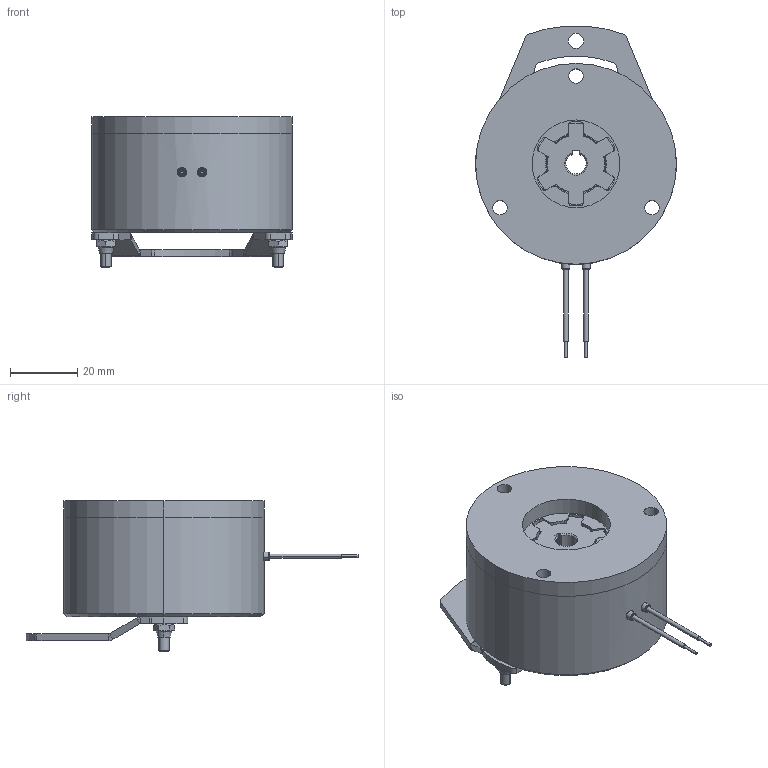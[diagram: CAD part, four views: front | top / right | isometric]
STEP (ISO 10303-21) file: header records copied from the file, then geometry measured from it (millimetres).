
FILE_DESCRIPTION (( 'STEP AP214' ), '1' );
FILE_NAME ('dr_bk_0008_hf.STEP', '2021-11-08T13:42:02', ( '' ), ( '' ), 'SwSTEP 2.0', 'SolidWorks 2019', '' );
FILE_SCHEMA (( 'AUTOMOTIVE_DESIGN' ));
Length unit declared in the file: millimetre
Products named in the file (8): 10068671_000; dr_bk_0008_hf; 10068545_000_Kundenmodell; 10068546_000; 10068542_000_Einbaul„nge 19,65mm; 10068549_000; 10068547_000; 10068550_000
Assembly tree (7 placements, depth 2):
  dr_bk_0008_hf
    10068550_000
    10068542_000_Einbaul„nge 19,65mm
    10068549_000
    10068545_000_Kundenmodell
    10068546_000
    10068547_000
    10068671_000
Bounding box: 59.5 x 98.4 x 44.7 mm (x, y, z)
Volume: 80983.3 mm3; surface area: 37344.3 mm2
Topology: 15 solids, 15 shells, 478 faces, 1189 edges, 757 vertices
Faces by surface type: cylinder 226, plane 141, cone 60, bspline 26, torus 25
Entity records: 25186 total; most frequent: CARTESIAN_POINT 10533, DIRECTION 2471, ORIENTED_EDGE 2378, EDGE_CURVE 1189, AXIS2_PLACEMENT_3D 995, VERTEX_POINT 757, EDGE_LOOP 534, CIRCLE 533
